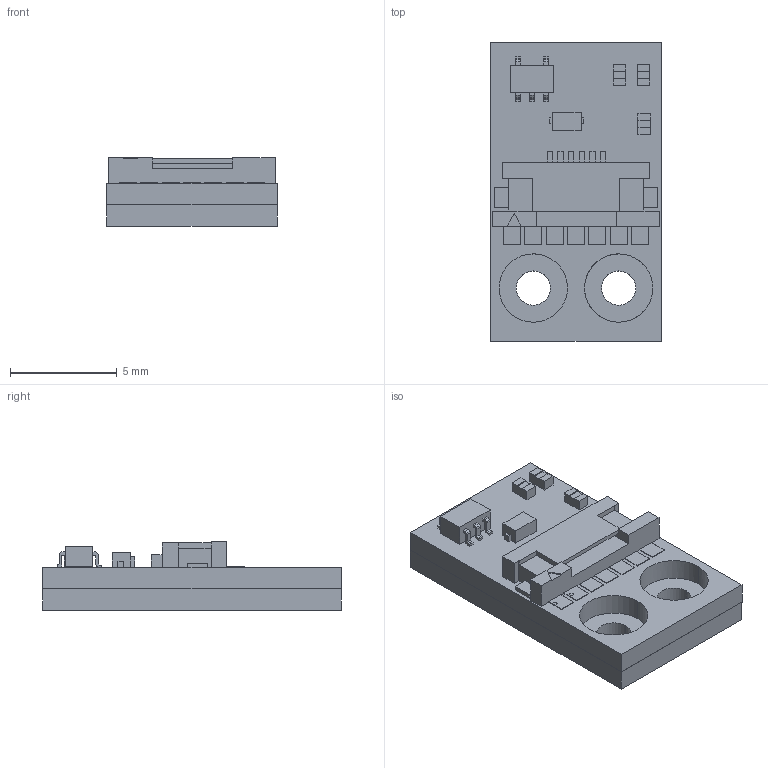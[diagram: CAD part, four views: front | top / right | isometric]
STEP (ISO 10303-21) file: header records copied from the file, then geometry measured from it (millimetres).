
FILE_DESCRIPTION (( 'STEP AP214' ), '1' );
FILE_NAME ('RLB2_8-3d.STEP', '2015-05-15T11:04:24', ( '' ), ( '' ), 'SwSTEP 2.0', 'SolidWorks 2013', '' );
FILE_SCHEMA (( 'AUTOMOTIVE_DESIGN' ));
Length unit declared in the file: millimetre
Products named in the file (1): RLB2_8-3d
Bounding box: 8 x 14 x 3.2 mm (x, y, z)
Volume: 229.1 mm3; surface area: 395.7 mm2
Topology: 1 solids, 4 shells, 247 faces, 685 edges, 456 vertices
Faces by surface type: plane 231, bspline 10, cylinder 6
Entity records: 8704 total; most frequent: CARTESIAN_POINT 2098, ORIENTED_EDGE 1370, DIRECTION 1143, EDGE_CURVE 685, LINE 643, VECTOR 643, VERTEX_POINT 456, EDGE_LOOP 269
